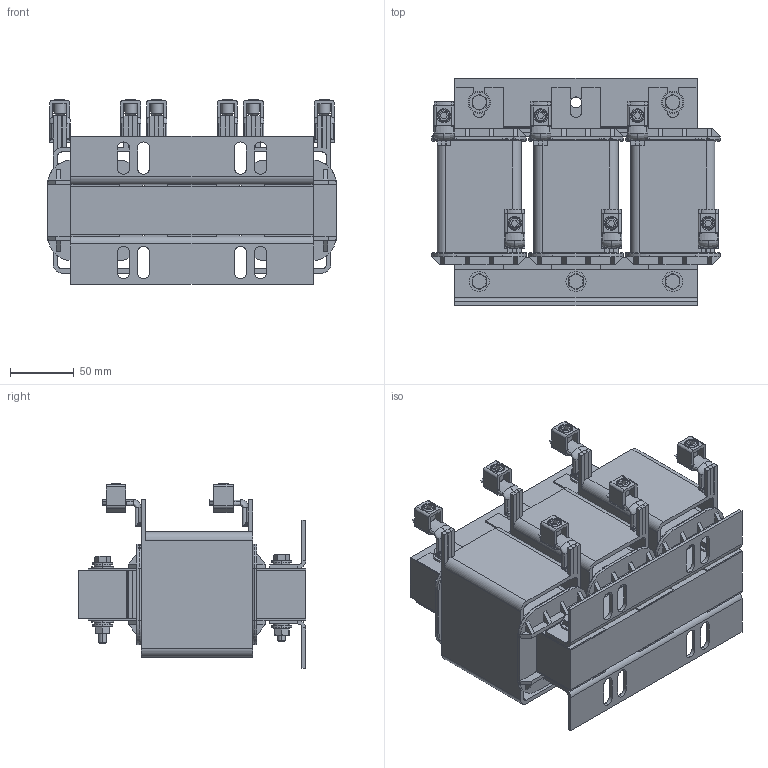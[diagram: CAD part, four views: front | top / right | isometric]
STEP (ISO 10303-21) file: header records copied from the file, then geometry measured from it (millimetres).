
FILE_DESCRIPTION (( 'STEP AP214' ), '1' );
FILE_NAME ('RL-08002.step', '2020-01-23T15:38:26', ( '' ), ( '' ), 'SwSTEP 2.0', 'SolidWorks 2018', '' );
FILE_SCHEMA (( 'AUTOMOTIVE_DESIGN' ));
Length unit declared in the file: inch
Products named in the file (23): COIL-1500139; 80150-013; EI150-M5126-3P E_EI150-M5126-3P E 1.5; SLU-125A; 71150-001; TVAR-030_PAPER-414; FLAT_WASHER_WASHER-12; SLU-125C; RL-08002; BOBBIN-026; TVAR-020_PAPER-187; GLASTIC-125_PAPER-170; FLAT_WASHER_WASHER-6; LABEL-025_DATE CODE; LABEL-019_BAR CODE; SLU-125_SLU-125; WASHER-16; socket set screw flat point_ai_SSFLATSKT 0.375-16x0.5-HX-N; KEPS_NUT_NUT-040; .250-20_HHCS_SCREW-45; EI150-M5126-3P I_EI150-M5126-3P I 1.5; 3811-001_PRODUCT LABEL
Assembly tree (61 placements, depth 4):
  RL-08002
    EI150-M5126-3P E_EI150-M5126-3P E 1.5
    EI150-M5126-3P I_EI150-M5126-3P I 1.5
    COIL-1500139  x3
      BOBBIN-026
      COIL-1500139
      SLU-125_SLU-125
        SLU-125C
        SLU-125A
        socket set screw flat point_ai_SSFLATSKT 0.375-16x0.5-HX-N
    GLASTIC-125_PAPER-170  x2
    TVAR-030_PAPER-414
    TVAR-020_PAPER-187
    71150-001  x6
    80150-013  x2
    3811-001_PRODUCT LABEL
    LABEL-019_BAR CODE
    LABEL-025_DATE CODE
    .250-20_HHCS_SCREW-45  x5
    FLAT_WASHER_WASHER-12  x4
    FLAT_WASHER_WASHER-6  x10
    KEPS_NUT_NUT-040  x5
    WASHER-16  x10
Bounding box: 226.82 x 179.2 x 145.61 mm (x, y, z)
Volume: 2073219.3 mm3; surface area: 910295.1 mm2
Topology: 81 solids, 81 shells, 2593 faces, 6638 edges, 4242 vertices
Faces by surface type: plane 1500, cylinder 698, bspline 150, torus 149, cone 84, sphere 12
Entity records: 41124 total; most frequent: CARTESIAN_POINT 14096, ORIENTED_EDGE 4690, DIRECTION 4162, EDGE_CURVE 2345, LINE 1522, VECTOR 1522, VERTEX_POINT 1516, AXIS2_PLACEMENT_3D 1320
